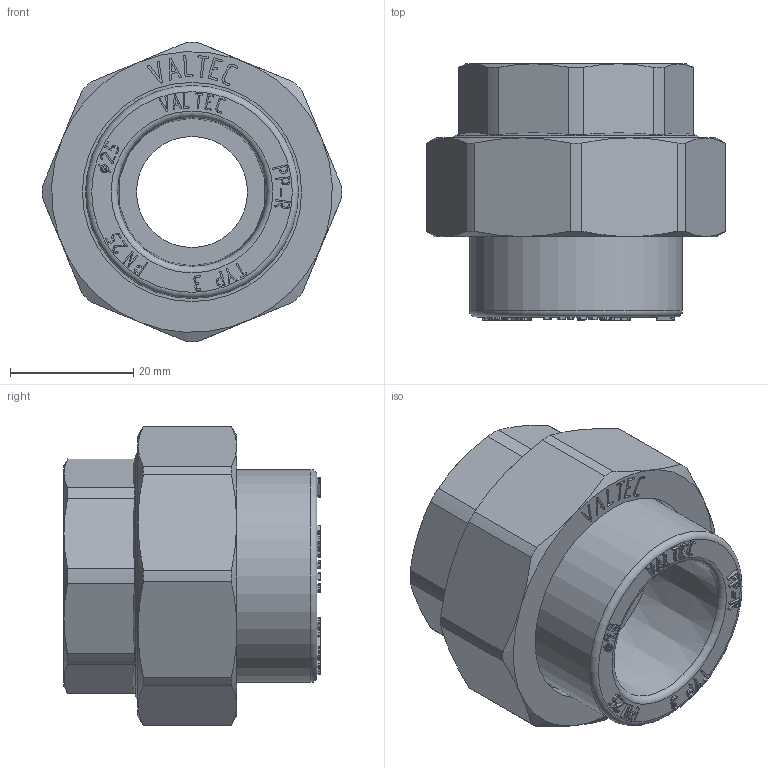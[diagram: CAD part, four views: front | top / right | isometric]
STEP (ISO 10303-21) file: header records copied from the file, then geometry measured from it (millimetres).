
FILE_DESCRIPTION(('STEP AP203'), '1');
FILE_NAME('VTp.762.0.02506', '2026-07-20T07:33:46', ('ledenevaEA'), (''), 'C3D Converter', 'C3D Toolkit', '');
FILE_SCHEMA(('CONFIG_CONTROL_DESIGN'));
Length unit declared in the file: millimetre
Products named in the file (1): ВР.302634.112.000 СБ
Bounding box: 48.5 x 41.5 x 48.5 mm (x, y, z)
Volume: 30496.5 mm3; surface area: 11921.4 mm2
Topology: 1 solids, 1 shells, 717 faces, 1996 edges, 1322 vertices
Faces by surface type: extrusion 391, plane 277, cone 25, cylinder 21, torus 3
Full cylindrical faces by diameter (mm): 18 x1, 24.2 x1, 30.292 x1, 34.5 x1, 35.5 x1
Entity records: 24171 total; most frequent: CARTESIAN_POINT 7453, ORIENTED_EDGE 3950, DIRECTION 2251, EDGE_CURVE 1975, VECTOR 1467, VERTEX_POINT 1318, B_SPLINE_CURVE_WITH_KNOTS 1221, LINE 1076
